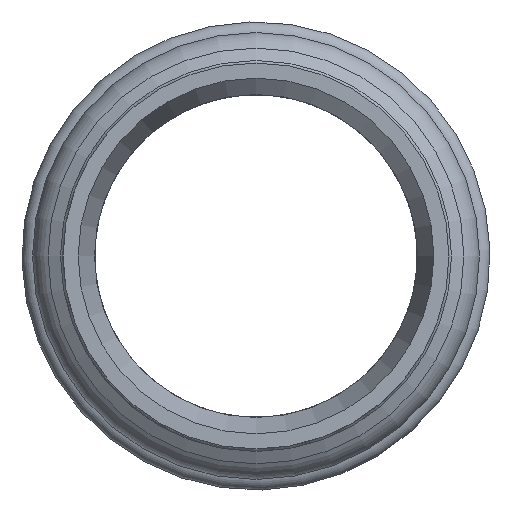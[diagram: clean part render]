
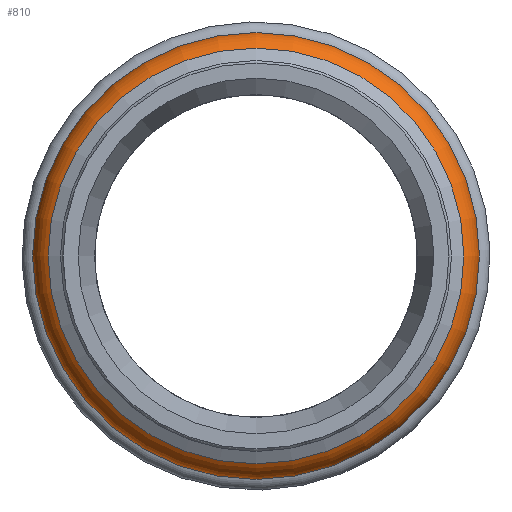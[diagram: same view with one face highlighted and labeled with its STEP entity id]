
A CAD part, left-side view. The second image highlights one B-rep face of the part: STEP entity #810.
In plain terms, the highlighted toroidal (fillet/blend) face has major radius 19.05 mm and minor radius 3.1 mm.
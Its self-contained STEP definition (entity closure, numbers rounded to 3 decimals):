
#628=CARTESIAN_POINT('',(-27.44,19.545,0.0));
#629=VERTEX_POINT('',#628);
#630=CARTESIAN_POINT('',(-27.44,0.,0.0));
#631=DIRECTION('',(1.0,0.0,0.0));
#632=DIRECTION('',(0.0,-1.0,0.0));
#633=AXIS2_PLACEMENT_3D('',#630,#631,#632);
#634=CIRCLE('',#633,19.545);
#635=EDGE_CURVE('',#629,#629,#634,.T.);
#772=CARTESIAN_POINT('',(-33.185,20.6,0.0));
#773=VERTEX_POINT('',#772);
#774=CARTESIAN_POINT('',(-33.185,0.,0.0));
#775=DIRECTION('',(1.0,0.0,0.0));
#776=DIRECTION('',(0.0,1.0,0.0));
#777=AXIS2_PLACEMENT_3D('',#774,#775,#776);
#778=CIRCLE('',#777,20.6);
#779=EDGE_CURVE('',#773,#773,#778,.T.);
#799=CARTESIAN_POINT('',(-30.5,0.,0.0));
#800=DIRECTION('',(1.0,0.,0.0));
#801=DIRECTION('',(0.0,0.0,-1.0));
#802=AXIS2_PLACEMENT_3D('',#799,#800,#801);
#803=TOROIDAL_SURFACE('',#802,19.05,3.1);
#804=ORIENTED_EDGE('',*,*,#779,.T.);
#805=EDGE_LOOP('',(#804));
#806=FACE_OUTER_BOUND('',#805,.T.);
#807=ORIENTED_EDGE('',*,*,#635,.F.);
#808=EDGE_LOOP('',(#807));
#809=FACE_BOUND('',#808,.T.);
#810=ADVANCED_FACE('',(#806,#809),#803,.T.);
